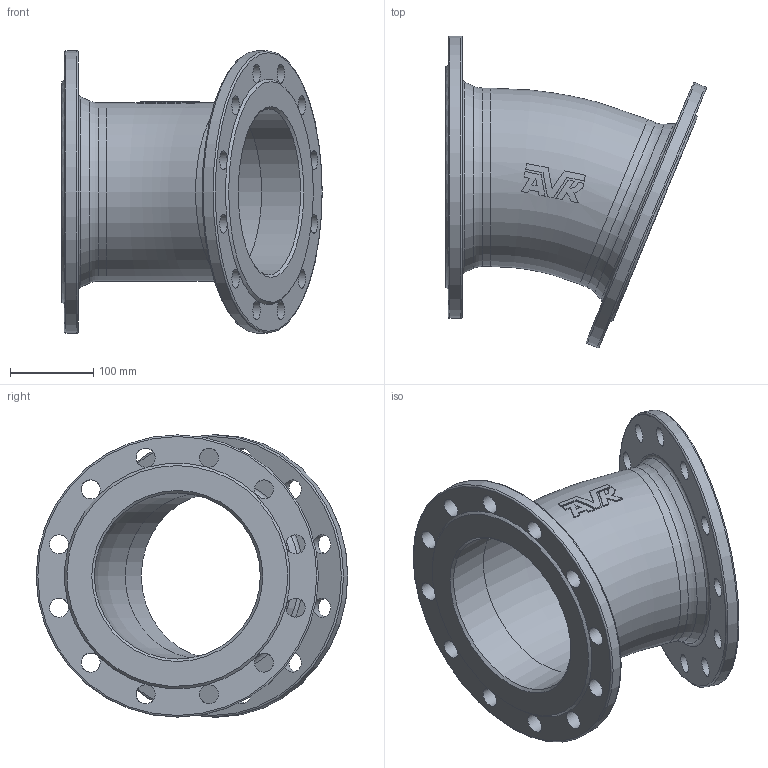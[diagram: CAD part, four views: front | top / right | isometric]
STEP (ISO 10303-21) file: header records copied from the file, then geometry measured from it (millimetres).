
FILE_DESCRIPTION (( 'STEP AP203' ), '1' );
FILE_NAME ('O_712_0210_DN200_1X_REV01.step', '2024-08-15T12:08:44', ( '' ), ( '' ), 'SwSTEP 2.0', 'SolidWorks 2022', '' );
FILE_SCHEMA (( 'CONFIG_CONTROL_DESIGN' ));
Length unit declared in the file: millimetre
Products named in the file (1): O_712_0210_DN200_1X_REV01
Bounding box: 313.7 x 375.43 x 340 mm (x, y, z)
Volume: 3183505.4 mm3; surface area: 573014.3 mm2
Topology: 1 solids, 1 shells, 93 faces, 288 edges, 181 vertices
Faces by surface type: plane 41, cylinder 32, torus 14, cone 6
Full cylindrical faces by diameter (mm): 23 x24, 200 x2, 215 x2, 340 x2
Entity records: 3000 total; most frequent: CARTESIAN_POINT 753, DIRECTION 421, ORIENTED_EDGE 418, EDGE_CURVE 209, AXIS2_PLACEMENT_3D 192, EDGE_LOOP 173, VERTEX_POINT 148, FACE_OUTER_BOUND 133
